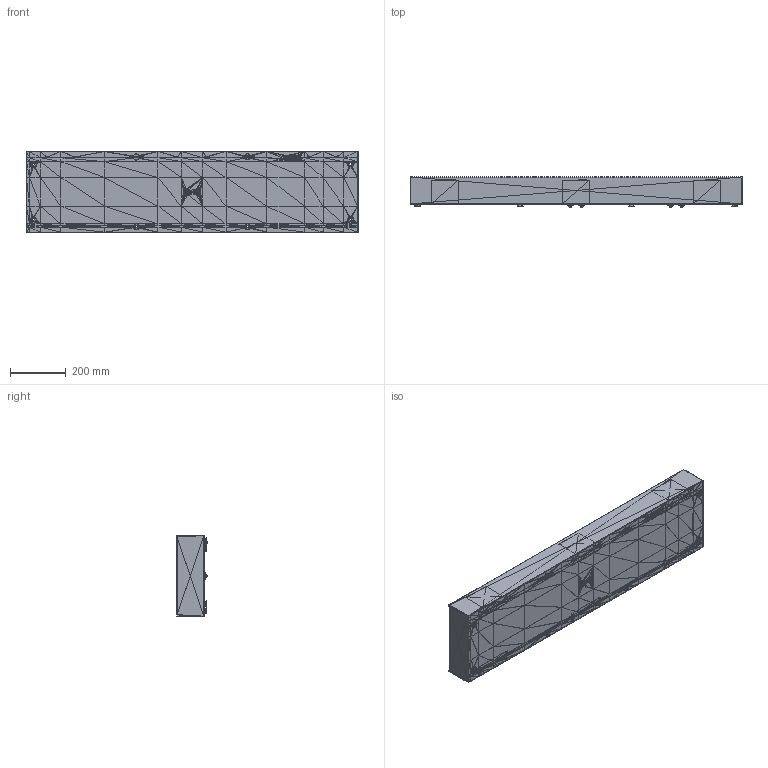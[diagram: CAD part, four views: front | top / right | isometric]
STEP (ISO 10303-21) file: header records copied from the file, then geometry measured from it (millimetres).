
FILE_DESCRIPTION((''),'2;1');
FILE_NAME('057534', '2025-07-29T06:35:05', (''), (''), 'ImageToStl.com STEP Converter','', '');
FILE_SCHEMA(('AUTOMOTIVE_DESIGN_CC2'));
Length unit declared in the file: metre
Products named in the file (1): product0
Bounding box: 1193 x 110.3 x 294.1 mm (x, y, z)
Surface area: 1562128.9 mm2 (no closed solid volume)
Topology: 0 solids, 24342 shells, 24342 faces, 73026 edges, 12091 vertices
Faces by surface type: plane 24342
Entity records: 559734 total; most frequent: DIRECTION 121712, ORIENTED_EDGE 73026, EDGE_CURVE 73026, LINE 73026, VECTOR 73026, AXIS2_PLACEMENT_3D 24343, FACE_SURFACE 24342, PLANE 24342
